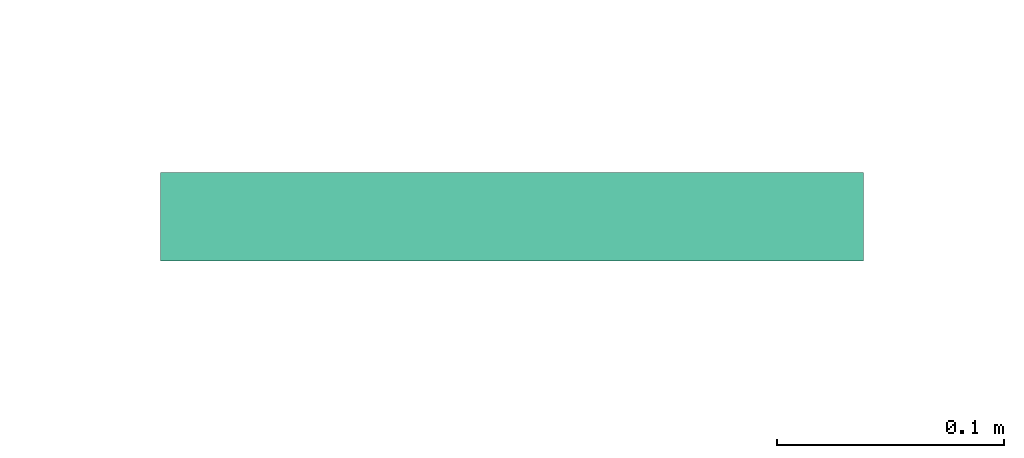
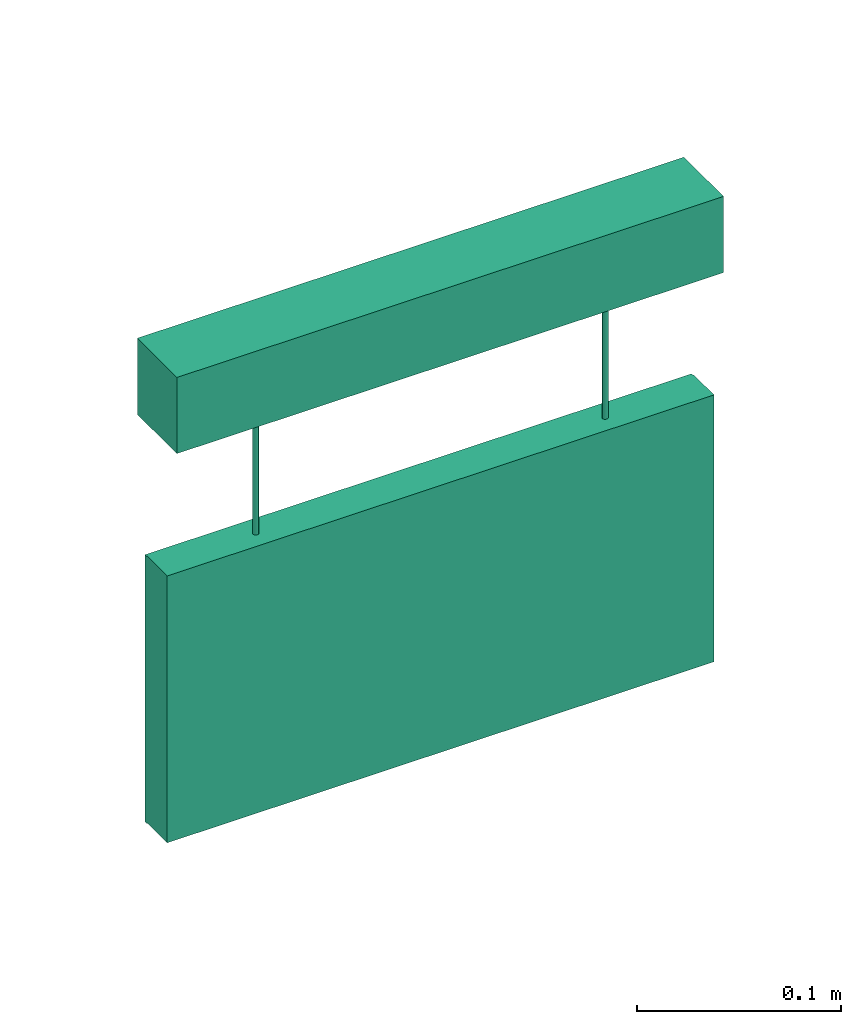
# One storey, part 4 of 4: 1 flow terminal.
"""IFC2X3 building model written with IfcOpenShell, lengths in millimetres."""

from ifc_helpers import new_model, entity, si_unit, converted_unit, derived_unit, direction, frame, frame_2d, origin, origin_2d_with_axis, place, context, subcontext, project, spatial, polyline, circle_curve, parameter, trimmed, segment, composite_curve, rectangle, circle, outline, extrude, source, transform, mapped, material, material_list, type_object, element, save


model = new_model("IFC2X3")

# Units and contexts
model_context = context("Model", 3, precision=0.01, world=frame((0.0, 4.29681676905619e-09, 0.0)), true_north=direction((4.01073788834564e-13, 1.0)))
plan_context = context("Plan", 3, precision=0.01, world=frame((0.0, 4.29681676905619e-09, 0.0)), true_north=direction((4.01073788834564e-13, 1.0)))
body_context = subcontext(model_context, "Body", "Model", "MODEL_VIEW")
ifc_project = project(units=[converted_unit("PLANEANGLEUNIT", "DEGREE", entity("IfcPositiveLengthMeasure", 0.0174532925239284), si_unit("PLANEANGLEUNIT", "RADIAN"), dimensions=[0, 0, 0, 0, 0, 0, 0]), si_unit("AREAUNIT", "SQUARE_METRE"), si_unit("LENGTHUNIT", "METRE", prefix="MILLI"), si_unit("MASSUNIT", "GRAM", prefix="KILO"), si_unit("POWERUNIT", "WATT"), si_unit("PRESSUREUNIT", "PASCAL"), si_unit("FORCEUNIT", "NEWTON", prefix="KILO"), si_unit("ELECTRICVOLTAGEUNIT", "VOLT"), si_unit("ELECTRICCURRENTUNIT", "AMPERE"), si_unit("THERMODYNAMICTEMPERATUREUNIT", "DEGREE_CELSIUS"), si_unit("TIMEUNIT", "SECOND"), si_unit("VOLUMEUNIT", "CUBIC_METRE"), derived_unit("LINEARVELOCITYUNIT", [(si_unit("LENGTHUNIT", "METRE"), 1), (si_unit("TIMEUNIT", "SECOND"), -1)]), derived_unit("VOLUMETRICFLOWRATEUNIT", [(si_unit("VOLUMEUNIT", "CUBIC_METRE"), 1), (si_unit("TIMEUNIT", "SECOND"), -1)]), derived_unit("THERMALTRANSMITTANCEUNIT", [(si_unit("POWERUNIT", "WATT"), 1), (si_unit("THERMODYNAMICTEMPERATUREUNIT", "KELVIN"), -1), (si_unit("AREAUNIT", "SQUARE_METRE"), -1)]), derived_unit("SOUNDPRESSUREUNIT", [(si_unit("PRESSUREUNIT", "PASCAL"), 1)])], contexts=[model_context, plan_context])

# Site, building, storey
site_placement = place(None, frame((0.0, -4.29681676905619e-09, 0.0), z_axis=(0.0, 0.0, 1.0), x_axis=(1.0, 0.0, 0.0)))
site = spatial("IfcSite", under=ifc_project, at=site_placement, Name="Default", CompositionType="ELEMENT")
building_placement = place(site_placement, frame((0.0, 4.29681676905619e-09, 0.0), z_axis=(0.0, 0.0, 1.0), x_axis=(1.0, 0.0, 0.0)))
building = spatial("IfcBuilding", under=site, at=building_placement, CompositionType="ELEMENT")
storey_placement = place(building_placement, frame((0.0, 0.0, 210900.0), z_axis=(0.0, 0.0, 1.0), x_axis=(1.0, 0.0, 0.0)))
storey = spatial("IfcBuildingStorey", under=building, at=storey_placement, Name="Nivå F", CompositionType="ELEMENT", Elevation=210900.0)

# Flow terminal
ifc_material_1 = material(Name="Light Source Hvit")
ifc_material_2 = material(Name="Light Source Grønn")
ifc_material_3 = material(Name="<Unnamed>")
ifc_material_list = material_list([ifc_material_1, ifc_material_2, ifc_material_3])
light_fixture_type = type_object("IfcLightFixtureType", Name="IB7334 Markeringslys ensidig 30 meter leseavstand wire:IB7334 Zumtobel Puresign/Consign 150 ASI NDA", PredefinedType="NOTDEFINED", material=ifc_material_list)
shared_shape = source(origin(), body_context, "Body", "SweptSolid", [
    extrude(outline(polyline([(-9.94071838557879, -40.8929275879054), (20.6582999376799, -40.8929275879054), (61.5512275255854, 0.0), (20.6582999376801, 40.8929275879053), (-9.94071838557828, 40.8929275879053), (17.4135315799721, 13.5386776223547), (-58.9067268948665, 13.5386776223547), (-58.9067268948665, -13.5386776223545), (17.4135315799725, -13.5386776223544), (-9.94071838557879, -40.8929275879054)])), frame((-68.0, 32.0, -204.02931218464), z_axis=(0.0, 1.0, 0.0), x_axis=(0.0, 0.0, -1.0)), (0.0, 0.0, 1.0), 2.0),
    extrude(outline(composite_curve([segment(trimmed(circle_curve(origin_2d_with_axis(), 70.0), [parameter(180.0)], [parameter(360.0)], True, "PARAMETER"), True, "CONTINUOUS"), segment(trimmed(circle_curve(origin_2d_with_axis(), 70.0), [parameter(0.0)], [parameter(180.0)], True, "PARAMETER"), True, "CONTINUOUS")], self_intersect=False), holes=[polyline([(60.2289772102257, 0.0), (19.3360496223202, -40.8929275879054), (-11.2629687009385, -40.8929275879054), (16.0912812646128, -13.5386776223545), (-60.2289772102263, -13.5386776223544), (-60.2289772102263, 13.5386776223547), (16.0912812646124, 13.5386776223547), (-11.262968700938, 40.8929275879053), (19.3360496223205, 40.8929275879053), (60.2289772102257, 0.0)])]), frame((-68.0, 32.0, -205.3515625), z_axis=(0.0, 1.0, 0.0), x_axis=(0.0, 0.0, -1.0)), (0.0, 0.0, 1.0), 2.0),
    extrude(outline(polyline([(-80.0, -155.0), (80.0, -155.0), (80.0, 155.0), (-80.0, 155.0), (-80.0, -155.0)]), holes=[polyline([(-46.0, 68.0), (-46.0, 110.0), (-34.0, 110.0), (-34.0, 80.0), (-2.58359213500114, 80.0), (26.0, 65.7082039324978), (26.0, 78.6028577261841), (8.91302546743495, 88.8550424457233), (15.0869745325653, 99.1449575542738), (38.0, 85.3971422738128), (38.0, 46.0), (36.9923017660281, 42.6717988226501), (27.2111025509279, 28.0), (14.0, 28.0), (14.0, 10.0), (2.0, 10.0), (2.0, 40.0), (22.2792226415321, 40.0), (-6.84828493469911, 58.204692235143), (-54.5419187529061, 29.5474658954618), (-60.8224348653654, 40.0), (-14.2226093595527, 68.0), (-46.0, 68.0)]), composite_curve([segment(trimmed(circle_curve(frame_2d((52.0, 42.0), x_axis=(0.0, -1.0)), 14.0), [parameter(3.05333249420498e-13)], [parameter(180.0)], True, "PARAMETER"), False, "CONTINUOUS"), segment(trimmed(circle_curve(frame_2d((52.0, 42.0), x_axis=(0.0, -1.0)), 14.0), [parameter(180.0)], [parameter(5.08888749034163e-14)], True, "PARAMETER"), False, "CONTINUOUS")], self_intersect=False), composite_curve([segment(trimmed(circle_curve(frame_2d((0.0, -68.0), x_axis=(0.0, -1.0)), 70.0), [parameter(3.05333249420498e-13)], [parameter(180.0)], True, "PARAMETER"), False, "CONTINUOUS"), segment(trimmed(circle_curve(frame_2d((0.0, -68.0), x_axis=(0.0, -1.0)), 70.0), [parameter(180.0)], [parameter(0.0)], True, "PARAMETER"), False, "CONTINUOUS")], self_intersect=False)]), frame((0.0, 32.0, -205.351562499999), z_axis=(0.0, 1.0, 0.0), x_axis=(0.0, 0.0, 1.0)), (0.0, 0.0, 1.0), 2.0),
    extrude(circle(Radius=14.0, at=origin_2d_with_axis()), frame((42.0, 32.0, -153.351562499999), z_axis=(0.0, 1.0, 0.0), x_axis=(-1.0, 0.0, 0.0)), (0.0, 0.0, 1.0), 2.0),
    extrude(outline(polyline([(32.7028994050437, -50.6303563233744), (44.7028994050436, -50.6303563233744), (44.7028994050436, -8.63035632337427), (12.9255087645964, -8.63035632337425), (59.5253342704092, 19.3696436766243), (53.2448181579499, 29.8221777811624), (5.55118433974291, 1.16495144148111), (-23.5763232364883, 19.3696436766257), (-3.29710059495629, 19.3696436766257), (-3.29710059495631, 49.3696436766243), (-15.2971005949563, 49.3696436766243), (-15.2971005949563, 31.3696436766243), (-28.5082031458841, 31.3696436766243), (-38.2894023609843, 16.6978448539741), (-39.2971005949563, 13.3696436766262), (-39.2971005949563, -26.0274985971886), (-16.3840751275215, -39.7753138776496), (-10.2101260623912, -29.4853987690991), (-27.2971005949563, -19.2332140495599), (-27.2971005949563, -6.33856025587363), (1.2864915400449, -20.6303563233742), (32.7028994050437, -20.6303563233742), (32.7028994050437, -50.6303563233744)])), frame((59.369643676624, 32.0, -206.648663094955), z_axis=(0.0, 1.0, 0.0), x_axis=(0.0, 0.0, -1.0)), (0.0, 0.0, 1.0), 2.0),
    extrude(circle(Radius=1.59910024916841, at=origin_2d_with_axis()), frame((-99.0444679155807, 22.0, -124.696846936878)), (0.0, 0.0, 1.0), 79.3452844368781),
    extrude(circle(Radius=1.59910024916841, at=origin_2d_with_axis()), frame((99.044467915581, 22.0, -124.696846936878), z_axis=(0.0, 0.0, 1.0), x_axis=(-1.0, 0.0, 0.0)), (0.0, 0.0, 1.0), 79.3452844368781),
    extrude(rectangle(XDim=310.0, YDim=38.8655790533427, at=origin_2d_with_axis()), frame((0.0, 22.0, -45.6796874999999), z_axis=(0.0, 0.0, 1.0), x_axis=(-1.0, 0.0, 0.0)), (0.0, 0.0, 1.0), 45.6596380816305),
    extrude(rectangle(XDim=310.0, YDim=20.0, at=frame_2d((-1.4210854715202e-14, -1.77635683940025e-15), x_axis=(1.0, 0.0))), frame((0.0, 22.0, -284.696846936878), z_axis=(0.0, 0.0, 1.0), x_axis=(-1.0, 0.0, 0.0)), (0.0, 0.0, 1.0), 160.0),
])
flow_terminal_placement = place(storey_placement, frame((530082.862594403, 460958.908167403, 3000.0), z_axis=(0.0, 0.0, 1.0), x_axis=(1.0, 0.0, 0.0)))
element("IfcFlowTerminal", 1, at=flow_terminal_placement, inside=storey, type_object=light_fixture_type, material=ifc_material_list, Name="IB7334 Markeringslys ensidig 30 meter leseavstand wire:IB7334 Zumtobel Puresign/Consign 150 ASI NDA", ObjectType="IB7334 Markeringslys ensidig 30 meter leseavstand wire:IB7334 Zumtobel Puresign/Consign 150 ASI NDA", context=body_context, shape_type="MappedRepresentation", body=[
    mapped(shared_shape, transform((0.0, 0.0, 0.0), scale=1.0)),
])

save(model, "model.ifc")
